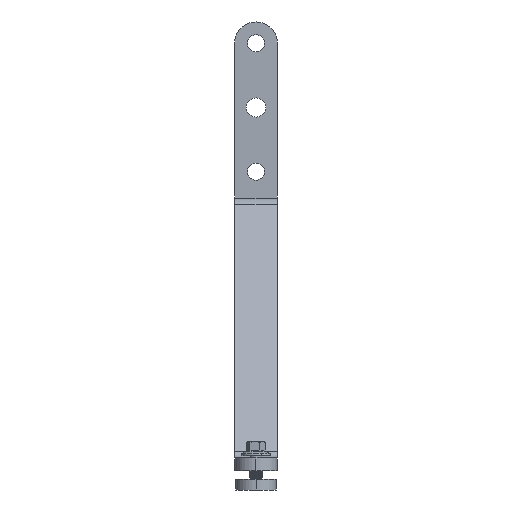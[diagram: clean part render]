
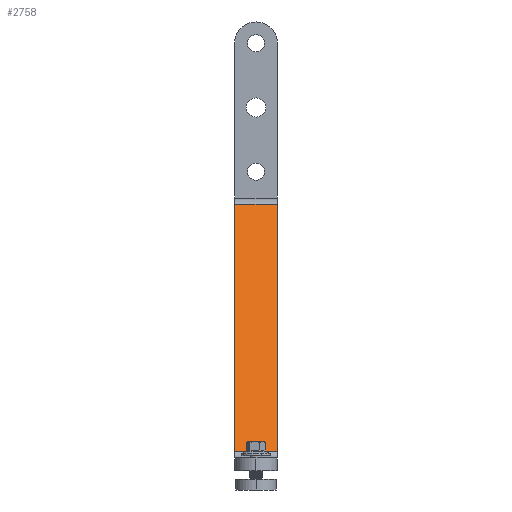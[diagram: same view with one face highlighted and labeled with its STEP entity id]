
A CAD part, left-side view. The second image highlights one B-rep face of the part: STEP entity #2758.
In plain terms, the highlighted planar face has unit normal (-0.866, 0, 0.5) as drawn and (0.866, 0, -0.5) by its records, which use the part's own axes.
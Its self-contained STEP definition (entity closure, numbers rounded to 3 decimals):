
#175 = VECTOR ( 'NONE', #5937, 1000. ) ;
#509 = DIRECTION ( 'NONE',  ( -0.5, 0., -0.866 ) ) ;
#524 = EDGE_LOOP ( 'NONE', ( #2089, #5164, #3030, #1508 ) ) ;
#686 = VECTOR ( 'NONE', #5676, 1000. ) ;
#1508 = ORIENTED_EDGE ( 'NONE', *, *, #5430, .T. ) ;
#1518 = PLANE ( 'NONE',  #2170 ) ;
#1638 = VECTOR ( 'NONE', #4197, 1000. ) ;
#2046 = VECTOR ( 'NONE', #4001, 1000. ) ;
#2089 = ORIENTED_EDGE ( 'NONE', *, *, #3887, .F. ) ;
#2110 = CARTESIAN_POINT ( 'NONE',  ( 73.568, 10., 217. ) ) ;
#2170 = AXIS2_PLACEMENT_3D ( 'NONE', #3622, #2506, #509 ) ;
#2285 = CARTESIAN_POINT ( 'NONE',  ( 6.804, -10., 101.361 ) ) ;
#2437 = VERTEX_POINT ( 'NONE', #4361 ) ;
#2506 = DIRECTION ( 'NONE',  ( -0.866, 0., 0.5 ) ) ;
#2758 = ADVANCED_FACE ( 'NONE', ( #5679 ), #1518, .F. ) ;
#2906 = CARTESIAN_POINT ( 'NONE',  ( 6.804, -10., 101.361 ) ) ;
#3030 = ORIENTED_EDGE ( 'NONE', *, *, #6288, .T. ) ;
#3472 = VERTEX_POINT ( 'NONE', #2906 ) ;
#3597 = LINE ( 'NONE', #2285, #175 ) ;
#3608 = EDGE_CURVE ( 'NONE', #2437, #3472, #5229, .T. ) ;
#3622 = CARTESIAN_POINT ( 'NONE',  ( 6.804, 10., 101.361 ) ) ;
#3887 = EDGE_CURVE ( 'NONE', #3472, #5778, #3597, .T. ) ;
#4001 = DIRECTION ( 'NONE',  ( 0., -1., 0. ) ) ;
#4197 = DIRECTION ( 'NONE',  ( 0., -1., 0. ) ) ;
#4361 = CARTESIAN_POINT ( 'NONE',  ( 6.804, 10., 101.361 ) ) ;
#4759 = LINE ( 'NONE', #5230, #686 ) ;
#4767 = VERTEX_POINT ( 'NONE', #2110 ) ;
#4768 = CARTESIAN_POINT ( 'NONE',  ( 73.568, -10., 217. ) ) ;
#5164 = ORIENTED_EDGE ( 'NONE', *, *, #3608, .F. ) ;
#5204 = CARTESIAN_POINT ( 'NONE',  ( 73.568, 10., 217. ) ) ;
#5229 = LINE ( 'NONE', #6623, #2046 ) ;
#5230 = CARTESIAN_POINT ( 'NONE',  ( 6.804, 10., 101.361 ) ) ;
#5430 = EDGE_CURVE ( 'NONE', #4767, #5778, #5713, .T. ) ;
#5676 = DIRECTION ( 'NONE',  ( 0.5, 0., 0.866 ) ) ;
#5679 = FACE_OUTER_BOUND ( 'NONE', #524, .T. ) ;
#5713 = LINE ( 'NONE', #5204, #1638 ) ;
#5778 = VERTEX_POINT ( 'NONE', #4768 ) ;
#5937 = DIRECTION ( 'NONE',  ( 0.5, 0., 0.866 ) ) ;
#6288 = EDGE_CURVE ( 'NONE', #2437, #4767, #4759, .T. ) ;
#6623 = CARTESIAN_POINT ( 'NONE',  ( 6.804, 10., 101.361 ) ) ;
